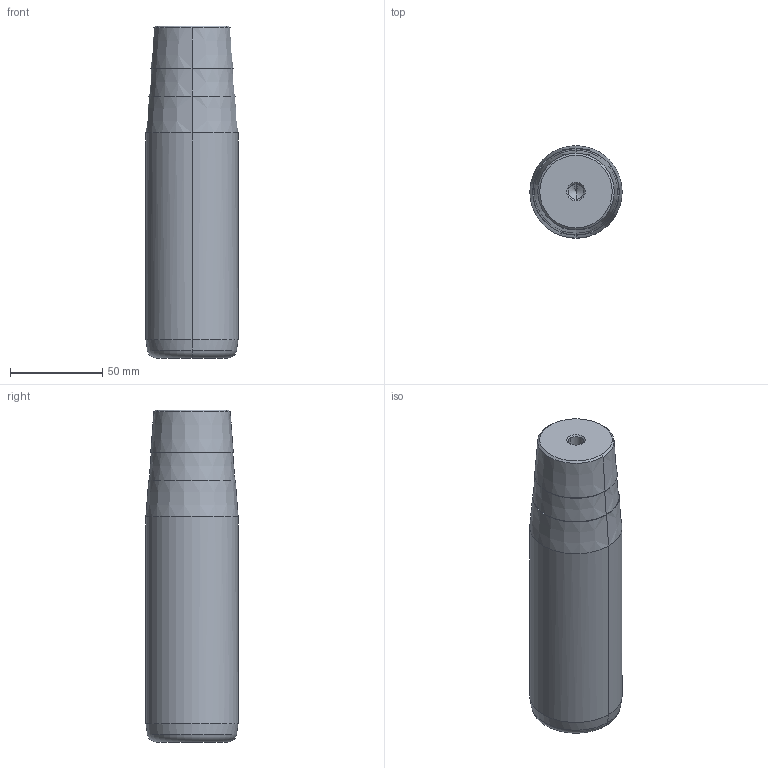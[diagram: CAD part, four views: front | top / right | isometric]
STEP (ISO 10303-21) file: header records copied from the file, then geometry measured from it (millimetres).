
FILE_DESCRIPTION(('CATIA V5 STEP Exchange'),'2;1');
FILE_NAME('C:\Users\Utente\Desktop\IO LAVORO\3D X SITO CF\X SITO\722\722-50x140x180.stp','2021-01-08T14:58:00+00:00',('none'),('none'),'CATIA Version 5 Release 20 GA (IN-10)','CATIA V5 STEP AP203','none');
FILE_SCHEMA(('CONFIG_CONTROL_DESIGN'));
Length unit declared in the file: millimetre
Products named in the file (1): 722-50x140x180
Bounding box: 50 x 50 x 180 mm (x, y, z)
Volume: 329709 mm3; surface area: 31673.2 mm2
Topology: 1 solids, 1 shells, 32 faces, 98 edges, 66 vertices
Faces by surface type: cone 22, cylinder 6, plane 2, torus 2
Entity records: 1166 total; most frequent: CARTESIAN_POINT 279, ORIENTED_EDGE 188, DIRECTION 148, EDGE_CURVE 94, AXIS2_PLACEMENT_3D 89, VERTEX_POINT 66, CIRCLE 56, EDGE_LOOP 34
